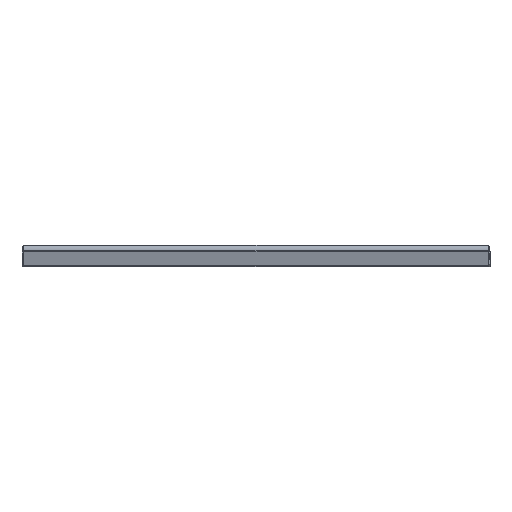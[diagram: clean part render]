
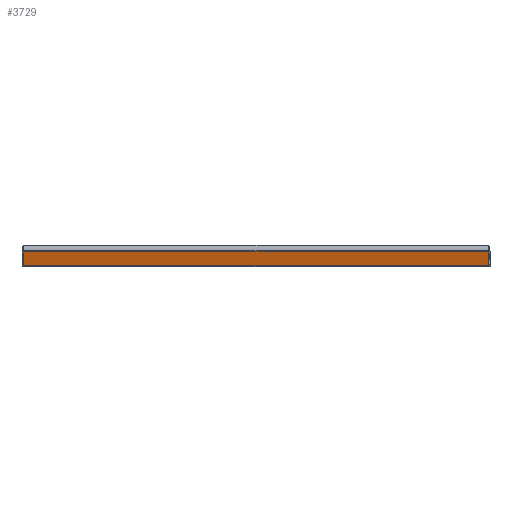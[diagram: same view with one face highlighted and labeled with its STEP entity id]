
A CAD part, front view. The second image highlights one B-rep face of the part: STEP entity #3729.
In plain terms, the highlighted planar face has unit normal (0, -0.966, -0.259) as drawn and (0.966, 0, 0.259) by its records, which use the part's own axes.
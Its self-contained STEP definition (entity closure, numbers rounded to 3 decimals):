
#83 = EDGE_CURVE ( 'NONE', #1739, #3314, #2157, .T. ) ;
#136 = EDGE_CURVE ( 'NONE', #3314, #2019, #3654, .T. ) ;
#180 = CARTESIAN_POINT ( 'NONE',  ( 417.865, 225.027, 0. ) ) ;
#433 = AXIS2_PLACEMENT_3D ( 'NONE', #1980, #1066, #3281 ) ;
#446 = CARTESIAN_POINT ( 'NONE',  ( 416.349, 226.5, 5.659 ) ) ;
#631 = DIRECTION ( 'NONE',  ( 0.259, 0., -0.966 ) ) ;
#634 = CARTESIAN_POINT ( 'NONE',  ( 412.339, -225.027, 20.625 ) ) ;
#755 = ORIENTED_EDGE ( 'NONE', *, *, #3457, .T. ) ;
#854 = CARTESIAN_POINT ( 'NONE',  ( 412.339, 226.5, 20.625 ) ) ;
#857 = CARTESIAN_POINT ( 'NONE',  ( 412.339, 225.027, 20.625 ) ) ;
#907 = ORIENTED_EDGE ( 'NONE', *, *, #2289, .F. ) ;
#1003 = ORIENTED_EDGE ( 'NONE', *, *, #83, .T. ) ;
#1066 = DIRECTION ( 'NONE',  ( -0.966, 0., -0.259 ) ) ;
#1217 = VECTOR ( 'NONE', #3284, 1000. ) ;
#1250 = EDGE_LOOP ( 'NONE', ( #1003, #3527, #755, #907 ) ) ;
#1326 = VECTOR ( 'NONE', #2131, 1000. ) ;
#1424 = CARTESIAN_POINT ( 'NONE',  ( 416.349, 225.027, 5.659 ) ) ;
#1739 = VERTEX_POINT ( 'NONE', #1424 ) ;
#1980 = CARTESIAN_POINT ( 'NONE',  ( 417.865, 226.5, 0. ) ) ;
#2019 = VERTEX_POINT ( 'NONE', #634 ) ;
#2131 = DIRECTION ( 'NONE',  ( -0.259, 0., 0.966 ) ) ;
#2157 = LINE ( 'NONE', #180, #1326 ) ;
#2184 = CARTESIAN_POINT ( 'NONE',  ( 416.349, -225.027, 5.659 ) ) ;
#2244 = DIRECTION ( 'NONE',  ( 0., -1., 0. ) ) ;
#2289 = EDGE_CURVE ( 'NONE', #1739, #3479, #2890, .T. ) ;
#2306 = LINE ( 'NONE', #2482, #3473 ) ;
#2482 = CARTESIAN_POINT ( 'NONE',  ( 417.865, -225.027, 0. ) ) ;
#2799 = VECTOR ( 'NONE', #2244, 1000. ) ;
#2890 = LINE ( 'NONE', #446, #1217 ) ;
#2905 = FACE_OUTER_BOUND ( 'NONE', #1250, .T. ) ;
#2950 = PLANE ( 'NONE',  #433 ) ;
#3281 = DIRECTION ( 'NONE',  ( -0.259, 0., 0.966 ) ) ;
#3284 = DIRECTION ( 'NONE',  ( 0., -1., 0. ) ) ;
#3314 = VERTEX_POINT ( 'NONE', #857 ) ;
#3457 = EDGE_CURVE ( 'NONE', #2019, #3479, #2306, .T. ) ;
#3473 = VECTOR ( 'NONE', #631, 1000. ) ;
#3479 = VERTEX_POINT ( 'NONE', #2184 ) ;
#3527 = ORIENTED_EDGE ( 'NONE', *, *, #136, .T. ) ;
#3654 = LINE ( 'NONE', #854, #2799 ) ;
#3729 = ADVANCED_FACE ( 'NONE', ( #2905 ), #2950, .F. ) ;
